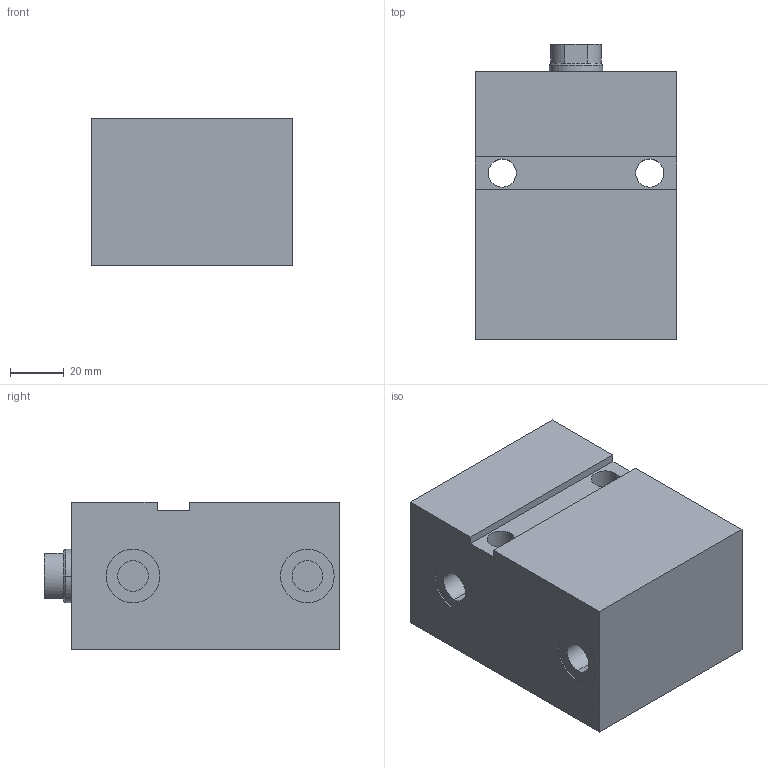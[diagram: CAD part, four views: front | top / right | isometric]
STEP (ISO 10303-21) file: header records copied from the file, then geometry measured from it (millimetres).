
FILE_DESCRIPTION (( 'STEP AP203' ), '1' );
FILE_NAME ('GERMA_Blockzylinder_602-032-050.STEP', '2015-06-20T18:13:31', ( '' ), ( '' ), 'SwSTEP 2.0', 'SolidWorks 2013', '' );
FILE_SCHEMA (( 'CONFIG_CONTROL_DESIGN' ));
Length unit declared in the file: millimetre
Products named in the file (3): GERMA_Blockzylinder_602-032-050; GH-600-032_GH-602-032-050; Kolben 60x-032_Kolben DU.32-Hub50-IG
Assembly tree (2 placements, depth 2):
  GERMA_Blockzylinder_602-032-050
    GH-600-032_GH-602-032-050
    Kolben 60x-032_Kolben DU.32-Hub50-IG
Bounding box: 75 x 110 x 55 mm (x, y, z)
Volume: 373926.7 mm3; surface area: 56841.4 mm2
Topology: 2 solids, 2 shells, 73 faces, 160 edges, 98 vertices
Faces by surface type: cylinder 33, plane 26, cone 14
Entity records: 2286 total; most frequent: DIRECTION 387, CARTESIAN_POINT 330, ORIENTED_EDGE 308, AXIS2_PLACEMENT_3D 155, EDGE_CURVE 154, VERTEX_POINT 98, EDGE_LOOP 90, VECTOR 77
